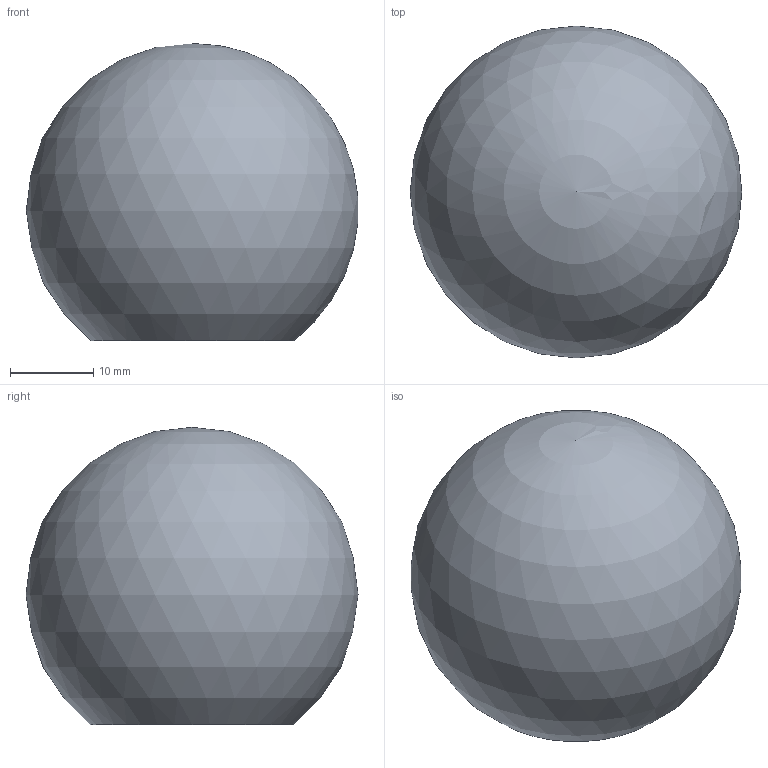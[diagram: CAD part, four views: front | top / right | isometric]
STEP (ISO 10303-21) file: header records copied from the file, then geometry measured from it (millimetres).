
FILE_DESCRIPTION( ('This file contains a STEP AP42 implementation' ,'as created by ZW3D STEP Interface translator.') ,'2;1' );
FILE_NAME( 'Galka kulista DK40 typA.stp' ,'26 331. 952 0', (''), ('ZWCAD Software Co.'), 'Version 1.0', 'ZW3D to STEP translator', '' );
FILE_SCHEMA(('AP242_MANAGED_MODEL_BASED_3D_ENGINEERING_MIM_LF { 1 0 10303 442 1 1 4 }'));
Length unit declared in the file: millimetre
Products named in the file (1): 0
Bounding box: 39.93 x 40 x 35.8 mm (x, y, z)
Volume: 30380.4 mm3; surface area: 9106.1 mm2
Topology: 2 solids, 2 shells, 17 faces, 30 edges, 17 vertices
Faces by surface type: cylinder 6, cone 6, plane 4, sphere 1
Full cylindrical faces by diameter (mm): 10.2 x2, 15 x2, 17 x2
Entity records: 440 total; most frequent: DIRECTION 80, CARTESIAN_POINT 63, ORIENTED_EDGE 56, AXIS2_PLACEMENT_3D 34, EDGE_CURVE 28, EDGE_LOOP 19, VERTEX_POINT 17, FACE_OUTER_BOUND 17
